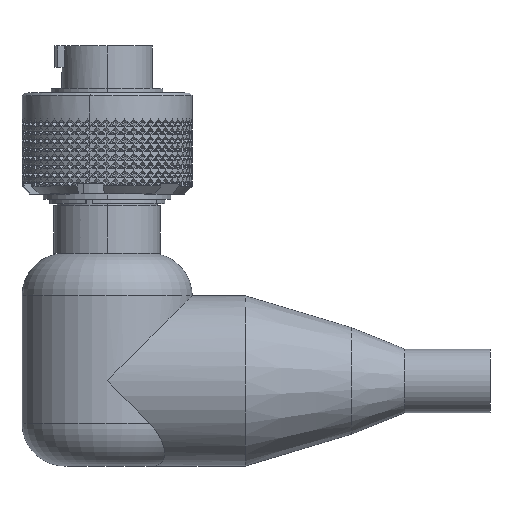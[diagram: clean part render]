
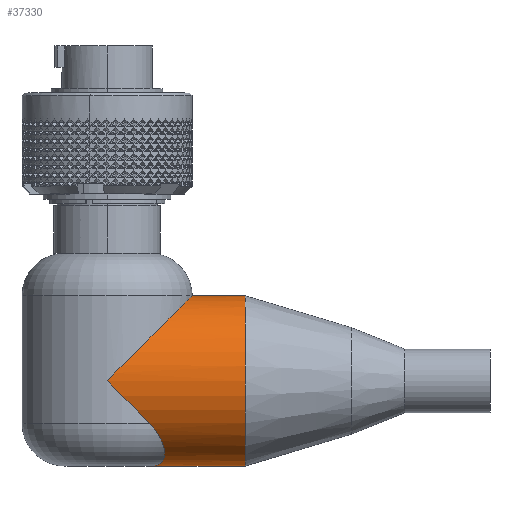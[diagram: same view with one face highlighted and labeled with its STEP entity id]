
A CAD part, top view. The second image highlights one B-rep face of the part: STEP entity #37330.
In plain terms, the highlighted cylindrical face has radius 8 mm (diameter 16 mm), a partial arc.
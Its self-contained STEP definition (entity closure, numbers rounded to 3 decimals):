
#303 = CARTESIAN_POINT ( 'NONE',  ( 0.153, 0., -4.108 ) ) ;
#545 = CYLINDRICAL_SURFACE ( 'NONE', #3831, 8. ) ;
#2043 = CARTESIAN_POINT ( 'NONE',  ( 6.618, 3.494, -4.461 ) ) ;
#3484 = CARTESIAN_POINT ( 'NONE',  ( 0., 0., -4. ) ) ;
#3831 = AXIS2_PLACEMENT_3D ( 'NONE', #9435, #71708, #18383 ) ;
#3849 = CARTESIAN_POINT ( 'NONE',  ( 1.635, 0.161, -4.893 ) ) ;
#4649 = DIRECTION ( 'NONE',  ( 0., 0., -1. ) ) ;
#7365 = CARTESIAN_POINT ( 'NONE',  ( 5.24, 1.943, -5.291 ) ) ;
#7672 = CARTESIAN_POINT ( 'NONE',  ( 7.634, 5.223, -2.777 ) ) ;
#7709 =( BOUNDED_CURVE ( )  B_SPLINE_CURVE ( 3, ( #108362, #60389, #97684, #108448 ),
 .UNSPECIFIED., .F., .F. ) 
 B_SPLINE_CURVE_WITH_KNOTS ( ( 4, 4 ),
 ( 3.142, 4.712 ),
 .UNSPECIFIED. ) 
 CURVE ( )  GEOMETRIC_REPRESENTATION_ITEM ( )  RATIONAL_B_SPLINE_CURVE ( ( 1., 0.805, 0.805, 1. ) ) 
 REPRESENTATION_ITEM ( '' )  );
#9435 = CARTESIAN_POINT ( 'NONE',  ( 0., 8., -23. ) ) ;
#10326 = DIRECTION ( 'NONE',  ( 0., 0., -1. ) ) ;
#16268 = CARTESIAN_POINT ( 'NONE',  ( 4.651, 1.48, -5.396 ) ) ;
#16336 = CARTESIAN_POINT ( 'NONE',  ( 8., 6.588, -1.412 ) ) ;
#18138 = CARTESIAN_POINT ( 'NONE',  ( 6.785, 3.752, -4.248 ) ) ;
#18383 = DIRECTION ( 'NONE',  ( 0., 1., 0. ) ) ;
#18533 = EDGE_LOOP ( 'NONE', ( #42123, #40224, #25652, #30037, #106028, #75587 ) ) ;
#24205 = VERTEX_POINT ( 'NONE', #3484 ) ;
#25197 = CARTESIAN_POINT ( 'NONE',  ( 3.355, 0.728, -5.358 ) ) ;
#25257 = LINE ( 'NONE', #55487, #53145 ) ;
#25652 = ORIENTED_EDGE ( 'NONE', *, *, #90533, .F. ) ;
#30037 = ORIENTED_EDGE ( 'NONE', *, *, #88080, .F. ) ;
#30277 = VERTEX_POINT ( 'NONE', #46804 ) ;
#37330 = ADVANCED_FACE ( 'NONE', ( #93036 ), #545, .T. ) ;
#37354 = EDGE_CURVE ( 'NONE', #56888, #58247, #7709, .T. ) ;
#37633 = CARTESIAN_POINT ( 'NONE',  ( 4.342, 1.27, -5.416 ) ) ;
#40224 = ORIENTED_EDGE ( 'NONE', *, *, #108563, .T. ) ;
#40545 = CARTESIAN_POINT ( 'NONE',  ( 0., 8., -13. ) ) ;
#41160 = CARTESIAN_POINT ( 'NONE',  ( 0.313, 0.004, -4.212 ) ) ;
#42123 = ORIENTED_EDGE ( 'NONE', *, *, #60299, .T. ) ;
#42381 = CIRCLE ( 'NONE', #64193, 8. ) ;
#46528 = VECTOR ( 'NONE', #4649, 1000. ) ;
#46804 = CARTESIAN_POINT ( 'NONE',  ( 6.928, 4., -4. ) ) ;
#48322 = CARTESIAN_POINT ( 'NONE',  ( 2.672, 0.451, -5.226 ) ) ;
#51473 = VERTEX_POINT ( 'NONE', #92693 ) ;
#51853 = B_SPLINE_CURVE_WITH_KNOTS ( 'NONE', 3,
 ( #96362, #18138, #2043, #64318, #55427, #85709, #7365, #16268, #37633, #89214, #25197, #48322, #51911, #3849, #66141, #92791, #108707, #41160, #303, #69625 ),
 .UNSPECIFIED., .F., .F.,
 ( 4, 2, 2, 2, 2, 2, 2, 2, 2, 4 ),
 ( 0., 0.001, 0.002, 0.003, 0.004, 0.006, 0.007, 0.008, 0.008, 0.009 ),
 .UNSPECIFIED. ) ;
#51911 = CARTESIAN_POINT ( 'NONE',  ( 2.328, 0.338, -5.133 ) ) ;
#53145 = VECTOR ( 'NONE', #57217, 1000. ) ;
#55427 = CARTESIAN_POINT ( 'NONE',  ( 6.003, 2.7, -4.975 ) ) ;
#55487 = CARTESIAN_POINT ( 'NONE',  ( 0., 16., -23. ) ) ;
#56888 = VERTEX_POINT ( 'NONE', #72242 ) ;
#57217 = DIRECTION ( 'NONE',  ( 0., 0., -1. ) ) ;
#58247 = VERTEX_POINT ( 'NONE', #105236 ) ;
#60299 = EDGE_CURVE ( 'NONE', #30277, #24205, #51853, .T. ) ;
#60389 = CARTESIAN_POINT ( 'NONE',  ( 4.686, 16., -8. ) ) ;
#63185 =( BOUNDED_CURVE ( )  B_SPLINE_CURVE ( 3, ( #64390, #16336, #7672, #98402 ),
 .UNSPECIFIED., .F., .F. ) 
 B_SPLINE_CURVE_WITH_KNOTS ( ( 4, 4 ),
 ( 4.712, 5.236 ),
 .UNSPECIFIED. ) 
 CURVE ( )  GEOMETRIC_REPRESENTATION_ITEM ( )  RATIONAL_B_SPLINE_CURVE ( ( 1., 0.977, 0.977, 1. ) ) 
 REPRESENTATION_ITEM ( '' )  );
#63370 = CARTESIAN_POINT ( 'NONE',  ( 0., 0., -23. ) ) ;
#64193 = AXIS2_PLACEMENT_3D ( 'NONE', #40545, #10326, #101029 ) ;
#64318 = CARTESIAN_POINT ( 'NONE',  ( 6.229, 2.969, -4.824 ) ) ;
#64390 = CARTESIAN_POINT ( 'NONE',  ( 8., 8., 0. ) ) ;
#66141 = CARTESIAN_POINT ( 'NONE',  ( 1.294, 0.098, -4.748 ) ) ;
#69625 = CARTESIAN_POINT ( 'NONE',  ( 0., 0., -4. ) ) ;
#71708 = DIRECTION ( 'NONE',  ( 0., 0., -1. ) ) ;
#72242 = CARTESIAN_POINT ( 'NONE',  ( 0., 16., -8. ) ) ;
#75587 = ORIENTED_EDGE ( 'NONE', *, *, #76442, .T. ) ;
#76442 = EDGE_CURVE ( 'NONE', #58247, #30277, #63185, .T. ) ;
#77089 = VERTEX_POINT ( 'NONE', #80424 ) ;
#80424 = CARTESIAN_POINT ( 'NONE',  ( 0., 0., -13. ) ) ;
#85709 = CARTESIAN_POINT ( 'NONE',  ( 5.51, 2.189, -5.208 ) ) ;
#88080 = EDGE_CURVE ( 'NONE', #56888, #51473, #25257, .T. ) ;
#89214 = CARTESIAN_POINT ( 'NONE',  ( 3.695, 0.895, -5.397 ) ) ;
#90533 = EDGE_CURVE ( 'NONE', #51473, #77089, #42381, .T. ) ;
#92693 = CARTESIAN_POINT ( 'NONE',  ( 0., 16., -13. ) ) ;
#92791 = CARTESIAN_POINT ( 'NONE',  ( 0.797, 0.038, -4.495 ) ) ;
#93036 = FACE_OUTER_BOUND ( 'NONE', #18533, .T. ) ;
#96362 = CARTESIAN_POINT ( 'NONE',  ( 6.928, 4., -4. ) ) ;
#97684 = CARTESIAN_POINT ( 'NONE',  ( 8., 12.686, -4.686 ) ) ;
#98402 = CARTESIAN_POINT ( 'NONE',  ( 6.928, 4., -4. ) ) ;
#101029 = DIRECTION ( 'NONE',  ( 0., 1., 0. ) ) ;
#104197 = LINE ( 'NONE', #63370, #46528 ) ;
#105236 = CARTESIAN_POINT ( 'NONE',  ( 8., 8., 0. ) ) ;
#106028 = ORIENTED_EDGE ( 'NONE', *, *, #37354, .T. ) ;
#108362 = CARTESIAN_POINT ( 'NONE',  ( 0., 16., -8. ) ) ;
#108448 = CARTESIAN_POINT ( 'NONE',  ( 8., 8., 0. ) ) ;
#108563 = EDGE_CURVE ( 'NONE', #24205, #77089, #104197, .T. ) ;
#108707 = CARTESIAN_POINT ( 'NONE',  ( 0.634, 0.024, -4.405 ) ) ;
